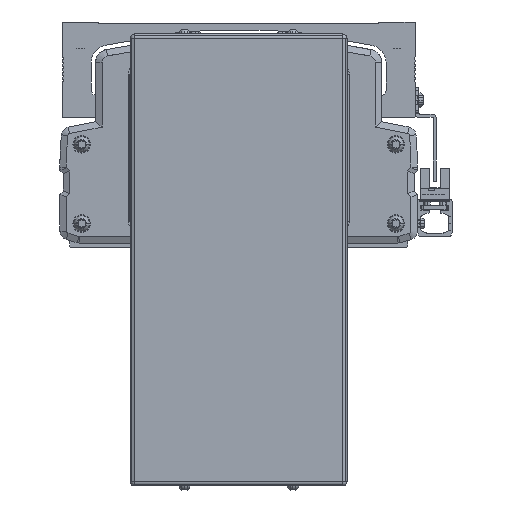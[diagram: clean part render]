
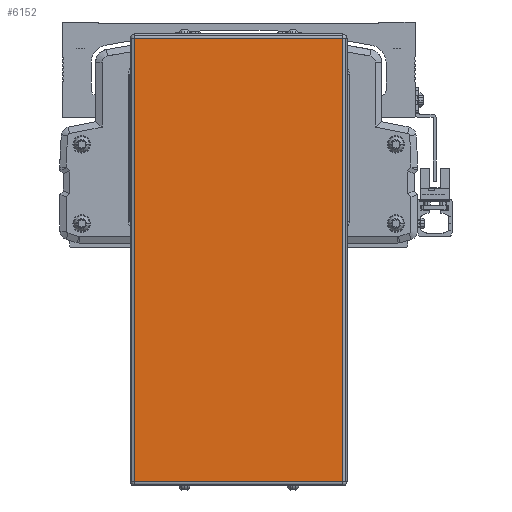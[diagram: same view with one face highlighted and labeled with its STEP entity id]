
A CAD part, front view. The second image highlights one B-rep face of the part: STEP entity #6152.
In plain terms, the highlighted planar face has unit normal (0, -1, 0).
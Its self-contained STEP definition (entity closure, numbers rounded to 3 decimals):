
#6152=ADVANCED_FACE('',(#13636),#13637,.T.);
#13636=FACE_OUTER_BOUND('',#24295,.T.);
#13637=PLANE('',#24296);
#24295=EDGE_LOOP('',(#42183,#42184,#42185,#42186));
#24296=AXIS2_PLACEMENT_3D('',#42187,#42188,#42189);
#42183=ORIENTED_EDGE('',*,*,#57198,.F.);
#42184=ORIENTED_EDGE('',*,*,#59495,.F.);
#42185=ORIENTED_EDGE('',*,*,#62501,.F.);
#42186=ORIENTED_EDGE('',*,*,#59007,.F.);
#42187=CARTESIAN_POINT('',(-600.,-472.778,-57.8));
#42188=DIRECTION('',(0.,-1.0,0.));
#42189=DIRECTION('',(0.,0.,-1.0));
#57198=EDGE_CURVE('',#68640,#68642,#68643,.T.);
#59007=EDGE_CURVE('',#68642,#71673,#71674,.T.);
#59495=EDGE_CURVE('',#72459,#68640,#72461,.T.);
#62501=EDGE_CURVE('',#71673,#72459,#76955,.T.);
#68640=VERTEX_POINT('',#85003);
#68642=VERTEX_POINT('',#85005);
#68643=LINE('',#85006,#85007);
#71673=VERTEX_POINT('',#89759);
#71674=LINE('',#89760,#89761);
#72459=VERTEX_POINT('',#90903);
#72461=LINE('',#90905,#90906);
#76955=LINE('',#97571,#97572);
#85003=CARTESIAN_POINT('',(-648.,-472.778,44.5));
#85005=CARTESIAN_POINT('',(-552.,-472.778,44.5));
#85006=CARTESIAN_POINT('',(-600.,-472.778,44.5));
#85007=VECTOR('',#105552,10.0);
#89759=CARTESIAN_POINT('',(-552.,-472.778,-160.1));
#89760=CARTESIAN_POINT('',(-552.,-472.778,-57.8));
#89761=VECTOR('',#107755,10.0);
#90903=CARTESIAN_POINT('',(-648.,-472.778,-160.1));
#90905=CARTESIAN_POINT('',(-648.,-472.778,-57.8));
#90906=VECTOR('',#108399,10.0);
#97571=CARTESIAN_POINT('',(-600.,-472.778,-160.1));
#97572=VECTOR('',#112208,10.0);
#105552=DIRECTION('',(1.0,0.,0.));
#107755=DIRECTION('',(0.,0.,-1.0));
#108399=DIRECTION('',(0.,0.,1.0));
#112208=DIRECTION('',(-1.0,0.,0.));
